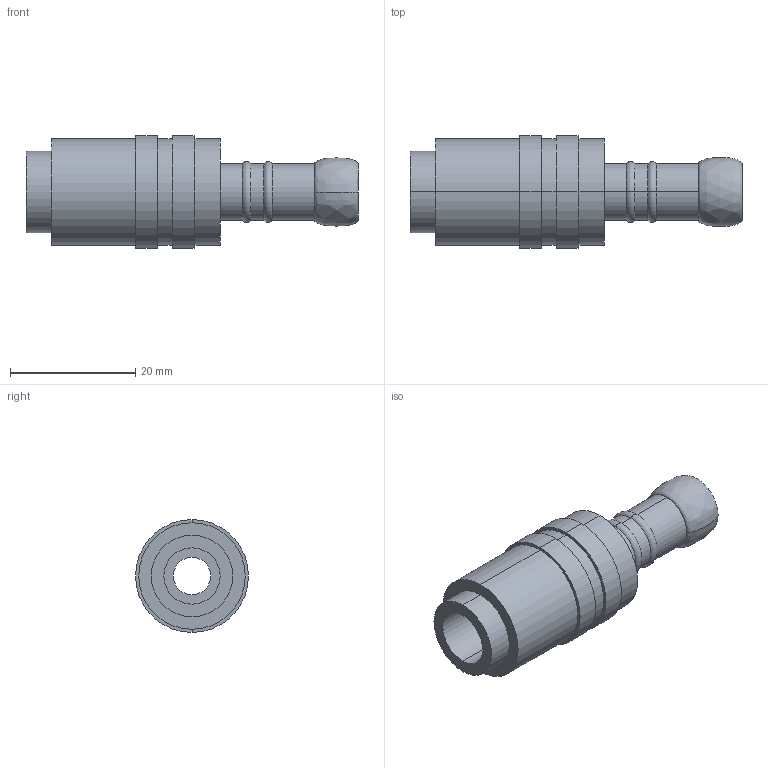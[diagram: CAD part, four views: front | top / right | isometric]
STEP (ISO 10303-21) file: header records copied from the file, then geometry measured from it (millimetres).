
FILE_DESCRIPTION (( 'STEP AP214' ), '1' );
FILE_NAME ('BruYRubio_BR80_09_09.STEP', '2020-06-22T13:59:21', ( '' ), ( '' ), 'SwSTEP 2.0', 'SolidWorks 2018', '' );
FILE_SCHEMA (( 'AUTOMOTIVE_DESIGN' ));
Length unit declared in the file: millimetre
Products named in the file (1): BruYRubio_BR80_09_09
Bounding box: 53 x 18.02 x 18.02 mm (x, y, z)
Volume: 6030.4 mm3; surface area: 4077.4 mm2
Topology: 1 solids, 1 shells, 39 faces, 80 edges, 48 vertices
Faces by surface type: cylinder 22, plane 7, cone 4, torus 4, bspline 2
Entity records: 1098 total; most frequent: DIRECTION 206, CARTESIAN_POINT 204, ORIENTED_EDGE 160, AXIS2_PLACEMENT_3D 90, EDGE_CURVE 80, CIRCLE 52, VERTEX_POINT 48, EDGE_LOOP 46
